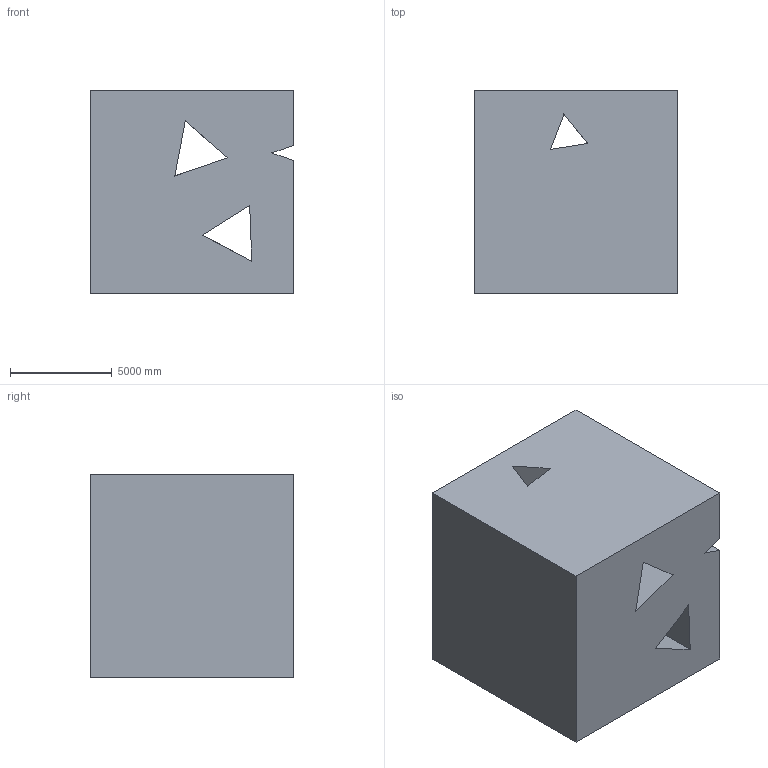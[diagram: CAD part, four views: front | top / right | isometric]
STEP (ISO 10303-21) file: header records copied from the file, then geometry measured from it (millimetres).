
FILE_DESCRIPTION (( 'STEP AP203' ), '1' );
FILE_NAME ('1363.STEP', '2022-08-18T14:03:15', ( 'user' ), ( '' ), 'SwSTEP 2.0', 'SolidWorks 2021', '' );
FILE_SCHEMA (( 'CONFIG_CONTROL_DESIGN' ));
Length unit declared in the file: centimetre
Products named in the file (1): 1363
Bounding box: 10000 x 10000 x 10000 mm (x, y, z)
Volume: 917494268421.3 mm3; surface area: 807097052.4 mm2
Topology: 1 solids, 1 shells, 20 faces, 66 edges, 44 vertices
Faces by surface type: plane 20
Entity records: 807 total; most frequent: ORIENTED_EDGE 132, CARTESIAN_POINT 131, DIRECTION 108, EDGE_CURVE 66, VECTOR 66, LINE 66, VERTEX_POINT 44, EDGE_LOOP 26
